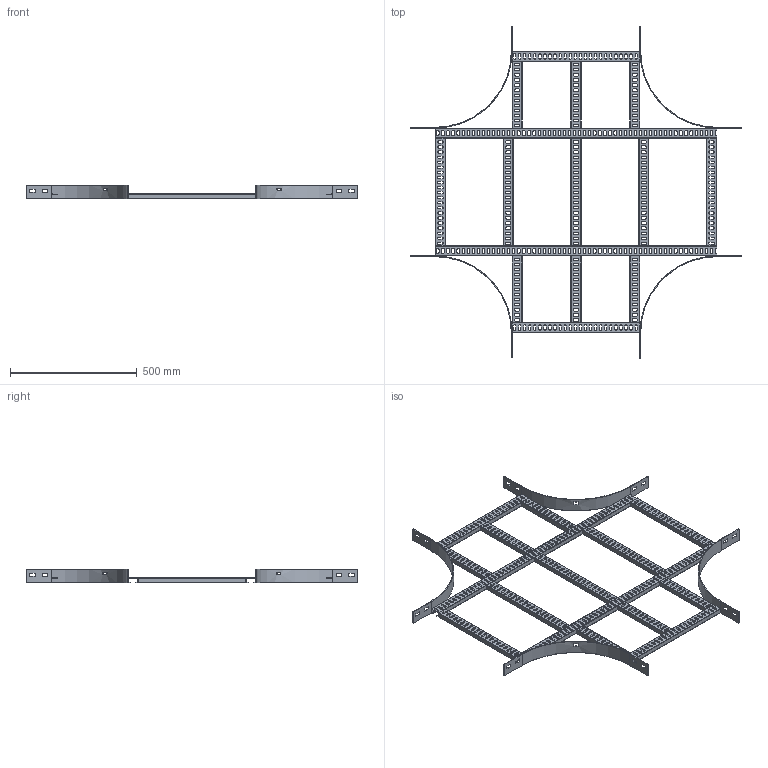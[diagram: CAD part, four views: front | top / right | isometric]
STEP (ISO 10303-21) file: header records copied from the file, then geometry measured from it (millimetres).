
FILE_DESCRIPTION(/* description */ ('','CAx-IF Rec.Pracs.---Representation and Presentation of Product Manufacturing Information (PMI)---4.0---2014-10-13'),/* implementation_level */ '2;1');
FILE_NAME(/* name */ 'Eurostrut_ECO60-500-300_Crossover for Cable Ladder ECL.step',/* time_stamp */ '2026-09-03T13:20:03+02:00',/* author */ (''),/* organization */ (''),/* preprocessor_version */ 'ST-DEVELOPER v20.1',/* originating_system */ 'Autodesk Revit 2027 27.2.0.39',/* authorisation */ '');
FILE_SCHEMA (('AP242_MANAGED_MODEL_BASED_3D_ENGINEERING_MIM_LF { 1 0 10303 442 2 1 4 }'));
Products named in the file (10): TopLevelAssembly; Sweep; Sweep_1; Sweep_2; Sweep_3; Eurostrut_Cable Ladder_Rung_With slots; Eurostrut_Cable Ladder_Rung_With slots_1; Eurostrut_Cable Ladder_Rung Array Straight_Slotted; Eurostrut_Cable Ladder_Rung Array Straight_Slotted_1; Eurostrut_Cable Ladder_Accessory End_54-94-142
Assembly tree (19 placements, depth 2):
  TopLevelAssembly
    Sweep
    Sweep_1
    Eurostrut_Cable Ladder_Rung_With slots  x2
    Eurostrut_Cable Ladder_Rung_With slots_1  x2
    Sweep_2
    Sweep_3
    Eurostrut_Cable Ladder_Rung Array Straight_Slotted
    Eurostrut_Cable Ladder_Rung Array Straight_Slotted_1  x2
    Eurostrut_Cable Ladder_Accessory End_54-94-142  x8
Bounding box: 1311 x 1311 x 54 mm (x, y, z)
Volume: 1271285.8 mm3; surface area: 1491376.9 mm2
Topology: 27 solids, 27 shells, 1802 faces, 5244 edges, 3496 vertices
Faces by surface type: plane 1044, bspline 690, cylinder 68
Entity records: 51486 total; most frequent: CARTESIAN_POINT 20569, ORIENTED_EDGE 6624, DIRECTION 5750, EDGE_CURVE 3312, LINE 2300, VECTOR 2300, VERTEX_POINT 2208, AXIS2_PLACEMENT_3D 1725
